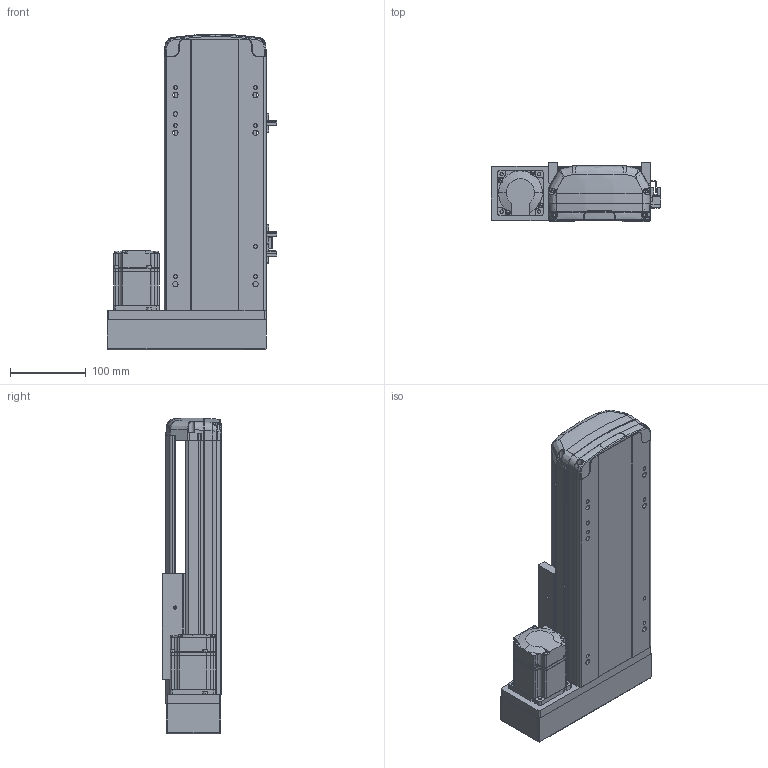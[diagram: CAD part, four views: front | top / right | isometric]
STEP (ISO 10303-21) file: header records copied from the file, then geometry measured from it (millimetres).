
FILE_DESCRIPTION (( 'STEP AP214' ), '1' );
FILE_NAME ('RTH14-XX-150-L-M20-C4.STEP', '2025-10-25T02:35:27', ( 'Microsoft' ), ( 'Microsoft' ), 'SwSTEP 2.0', 'SolidWorks 2018', '' );
FILE_SCHEMA (( 'AUTOMOTIVE_DESIGN' ));
Length unit declared in the file: millimetre
Products named in the file (10): N_MSMD022P1AA_200W^RTH14-XX-XX-L-M20-C4; N_RTH14-M-011P菁釱^RTH14-XX-XX-L-M20-C4; N_RTH13-L-018 裔赽^RTH14-XX-XX-L-M20-C4; N_OMRON EE-SX672 传感器^RTH14-XX-XX-L-M20-C4; N_RTH14-GY-001P^RTH14-XX-XX-L-M20-C4; N_RTH13-L-012感应片（外置）^RTH14-XX-XX-L-M20-C4; N_RTH14-M-007P奻裔^RTH14-XX-XX-L-M20-C4; N_RTH13-L-008-P20 萇儂啣酘蛌殏^RTH14-XX-XX-L-M20-C4; RTH14-XX-150-L-M20-C4; N_RTH14-R-004-SFSR16賑釱^RTH14-XX-XX-L-M20-C4
Assembly tree (11 placements, depth 2):
  RTH14-XX-150-L-M20-C4
    N_RTH14-M-011P菁釱^RTH14-XX-XX-L-M20-C4
    N_RTH14-M-007P奻裔^RTH14-XX-XX-L-M20-C4
    N_MSMD022P1AA_200W^RTH14-XX-XX-L-M20-C4
    N_RTH13-L-008-P20 萇儂啣酘蛌殏^RTH14-XX-XX-L-M20-C4
    N_RTH13-L-018 裔赽^RTH14-XX-XX-L-M20-C4
    N_RTH13-L-012感应片（外置）^RTH14-XX-XX-L-M20-C4
    N_OMRON EE-SX672 传感器^RTH14-XX-XX-L-M20-C4  x3
    N_RTH14-GY-001P^RTH14-XX-XX-L-M20-C4
    N_RTH14-R-004-SFSR16賑釱^RTH14-XX-XX-L-M20-C4
Bounding box: 224 x 78.03 x 417.49 mm (x, y, z)
Volume: 2263411 mm3; surface area: 550923.5 mm2
Topology: 11 solids, 11 shells, 1840 faces, 5135 edges, 3362 vertices
Faces by surface type: plane 985, cylinder 461, bspline 345, cone 45, torus 4
Entity records: 55881 total; most frequent: CARTESIAN_POINT 22729, ORIENTED_EDGE 7338, DIRECTION 5830, EDGE_CURVE 3669, VERTEX_POINT 2398, LINE 2126, VECTOR 2126, AXIS2_PLACEMENT_3D 1852
